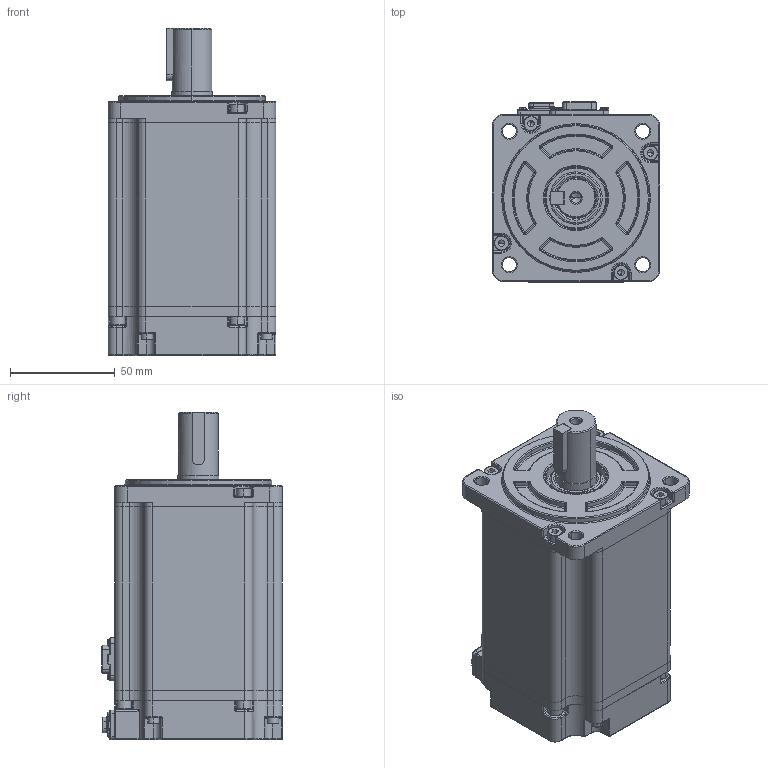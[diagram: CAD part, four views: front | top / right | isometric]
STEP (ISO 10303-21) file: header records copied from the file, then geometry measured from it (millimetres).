
FILE_DESCRIPTION (( 'STEP AP214' ), '1' );
FILE_NAME ('V7E-L08A-1R030-D1.STEP', '2021-08-09T03:32:37', ( '' ), ( '' ), 'SwSTEP 2.0', 'SolidWorks 2014', '' );
FILE_SCHEMA (( 'AUTOMOTIVE_DESIGN' ));
Length unit declared in the file: millimetre
Products named in the file (14): 蚐猾 D00B999YF5-TC 20-30-5-1; V7E-L08A-1R030-D1; SC40陔晤鎢ん瑤脣釱sc-mc7p-a6-zhichuxianchazuo; 60-80蚳蚚雄薯脣釱-sc-mc6p-ac-goubanchazuo; 80#陔晤鎢ん欶; 80#陔粣-750W-拸价陬; 80#陔晤鎢ん欶躇猾菜; 80#陔綴傷裔; 80#陔ヶ傷裔; 囀鞠褒 ISO 4762 M3 x 12 --- 12N; 普通型 平键   C 6x6x25 带M3起键螺钉孔; 750W隅赽郪璃; 750w儂褲; 囀鞠褒 ISO 4762 M4 x12--20201221
Assembly tree (23 placements, depth 3):
  V7E-L08A-1R030-D1
    750W隅赽郪璃
      750w儂褲
      80#陔ヶ傷裔
      60-80蚳蚚雄薯脣釱-sc-mc6p-ac-goubanchazuo
    80#陔綴傷裔
    80#陔晤鎢ん欶
    SC40陔晤鎢ん瑤脣釱sc-mc7p-a6-zhichuxianchazuo
    80#陔晤鎢ん欶躇猾菜
    蚐猾 D00B999YF5-TC 20-30-5-1
    80#陔粣-750W-拸价陬
    囀鞠褒 ISO 4762 M4 x12--20201221  x8
    普通型 平键   C 6x6x25 带M3起键螺钉孔
    囀鞠褒 ISO 4762 M3 x 12 --- 12N  x4
Bounding box: 80 x 86.1 x 156 mm (x, y, z)
Volume: 259547.9 mm3; surface area: 134843.9 mm2
Topology: 31 solids, 31 shells, 4142 faces, 10270 edges, 6232 vertices
Faces by surface type: plane 1874, cylinder 1385, bspline 348, cone 223, torus 214, sphere 98
Entity records: 139825 total; most frequent: CARTESIAN_POINT 47568, ORIENTED_EDGE 19100, DIRECTION 18689, EDGE_CURVE 9550, AXIS2_PLACEMENT_3D 6492, VERTEX_POINT 5878, LINE 5705, VECTOR 5705
